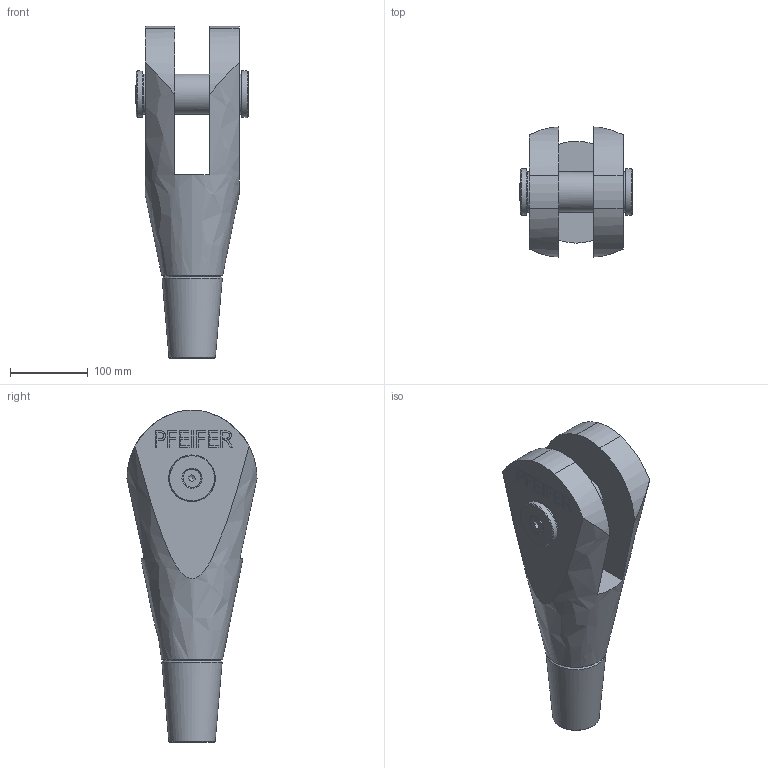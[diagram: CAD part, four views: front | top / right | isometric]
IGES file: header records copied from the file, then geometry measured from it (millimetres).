
Global section: file name: 520-052-GAK; native system: Autodesk Inventor 2016; preprocessor: unknown; author: Administrator; date: 20200625.075646; units: centimetre
Bounding box: 144.44 x 167.69 x 427.98 mm (x, y, z)
Volume: 3328870.5 mm3; surface area: 259532.2 mm2
Topology: 2 solids, 4 shells, 186 faces, 492 edges, 329 vertices
Faces by surface type: bspline 186
